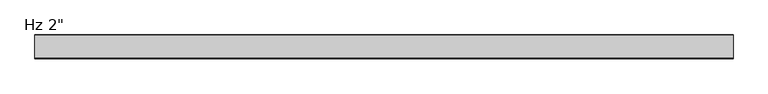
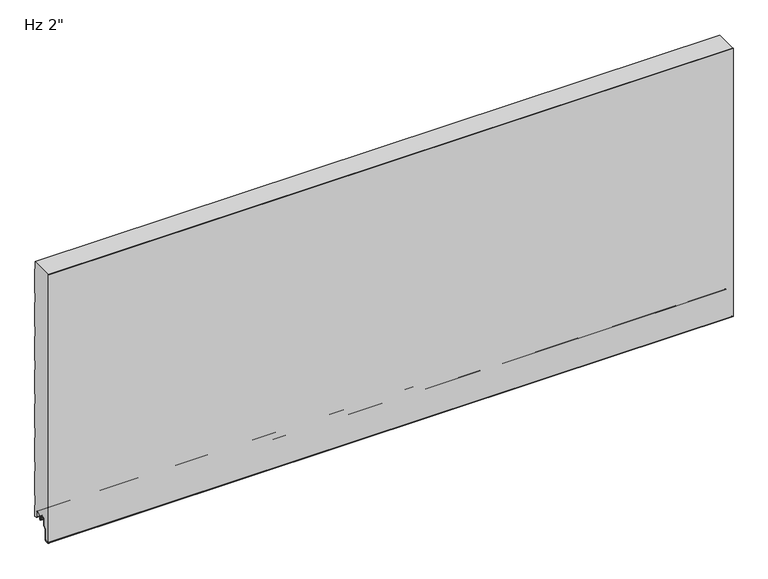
"""IFC4 building model written with IfcOpenShell, lengths in millimetres: plate geometry."""

from ifc_helpers import new_model, si_unit, point, frame, frame_2d, origin, place, context, project, spatial, polyline, circle_curve, trimmed, segment, composite_curve, outline, extrude, source, transform, mapped, element, save
from ifc_brep_helpers import plane_surface, cylinder_surface, revolved_surface, advanced_brep


def plate_41d342c4(model_context):
    return source(origin(), model_context, "Body", "SolidModel", [
        extrude(outline(composite_curve([segment(trimmed(circle_curve(frame_2d((-47.2297491, -32.4521148)), 3.5702393), [point((-46.9184787, -36.0087592))], [point((-50.7999884, -32.4521125))], False, "CARTESIAN"), True, "CONTINUOUS"), segment(polyline([(-50.7999884, -32.4521125), (-50.7996024, 571.2), (-49.7993815, 571.2), (-49.7993815, -32.509446)]), True, "CONTINUOUS"), segment(trimmed(circle_curve(frame_2d((-47.2297816, -32.4521176)), 2.5702393), [point((-49.7993815, -32.509446))], [point((-47.005696, -35.0125699))], True, "CARTESIAN"), True, "CONTINUOUS"), segment(polyline([(-47.005696, -35.0125699), (-42.0238751, -34.5765709)]), True, "CONTINUOUS"), segment(trimmed(circle_curve(frame_2d((-42.5052657, -31.9198392)), 2.6999926), [point((-42.0238751, -34.5765709))], [point((-39.8052731, -31.9198392))], True, "CARTESIAN"), True, "CONTINUOUS"), segment(polyline([(-39.8052731, -31.9198392), (-39.8052731, -9.8247096), (-34.303202, -4.3226385)]), True, "CONTINUOUS"), segment(trimmed(circle_curve(frame_2d((-35.5052797, -3.1205608)), 1.6999946), [point((-34.303202, -4.3226385))], [point((-33.8052851, -3.1205608))], True, "CARTESIAN"), True, "CONTINUOUS"), segment(polyline([(-33.8052851, -3.1205608), (-33.8052851, 8.6903283)]), True, "CONTINUOUS"), segment(trimmed(circle_curve(frame_2d((-30.4552898, 8.6903283)), 3.3499953), [point((-33.8052851, 8.6903283))], [point((-30.4552898, 12.0403236))], False, "CARTESIAN"), True, "CONTINUOUS"), segment(polyline([(-30.4552898, 12.0403236), (-26.0552986, 12.0403236)]), True, "CONTINUOUS"), segment(trimmed(circle_curve(frame_2d((-26.0552986, 8.6903283)), 3.3499953), [point((-26.0552986, 12.0403236))], [point((-22.7053033, 8.6903283))], False, "CARTESIAN"), True, "CONTINUOUS"), segment(polyline([(-22.7053033, 8.6903283), (-22.7053033, 5.9912173), (-21.3068244, 5.9912173), (-21.3068244, 2.2328239)]), True, "CONTINUOUS"), segment(trimmed(circle_curve(frame_2d((-22.5068211, 2.2313092)), 1.1999976), [point((-21.3068244, 2.2328239))], [point((-22.4762992, 1.0316999))], False, "CARTESIAN"), True, "CONTINUOUS"), segment(trimmed(circle_curve(frame_2d((-22.5068211, 2.2313092)), 1.1999976), [point((-22.4762992, 1.0316999))], [point((-23.7053033, 2.1710221))], False, "CARTESIAN"), True, "CONTINUOUS"), segment(polyline([(-23.7053033, 2.1710221), (-23.7053033, 8.6903283)]), True, "CONTINUOUS"), segment(trimmed(circle_curve(frame_2d((-26.0552986, 8.6903283)), 2.3499953), [point((-23.7053033, 8.6903283))], [point((-26.0552986, 11.0403236))], True, "CARTESIAN"), True, "CONTINUOUS"), segment(polyline([(-26.0552986, 11.0403236), (-30.4552898, 11.0403236)]), True, "CONTINUOUS"), segment(trimmed(circle_curve(frame_2d((-30.4552898, 8.6903283)), 2.3499953), [point((-30.4552898, 11.0403236))], [point((-32.8052851, 8.6903283))], True, "CARTESIAN"), True, "CONTINUOUS"), segment(polyline([(-32.8052851, 8.6903283), (-32.8052851, -3.1205608)]), True, "CONTINUOUS"), segment(trimmed(circle_curve(frame_2d((-35.5052797, -3.1205608)), 2.6999946), [point((-32.8052851, -3.1205608))], [point((-33.5960952, -5.0297453))], False, "CARTESIAN"), True, "CONTINUOUS"), segment(polyline([(-33.5960952, -5.0297453), (-38.4245127, -9.8581627)]), True, "CONTINUOUS"), segment(trimmed(circle_curve(frame_2d((-37.5052757, -10.7773997)), 1.2999974), [point((-38.4245127, -9.8581627))], [point((-38.8052731, -10.7773997))], True, "CARTESIAN"), True, "CONTINUOUS"), segment(polyline([(-38.8052731, -10.7773997), (-38.8052731, -31.9198392)]), True, "CONTINUOUS"), segment(trimmed(circle_curve(frame_2d((-42.5052657, -31.9198392)), 3.6999926), [point((-38.8052731, -31.9198392))], [point((-41.8944646, -35.5690675))], False, "CARTESIAN"), True, "CONTINUOUS"), segment(polyline([(-41.8944646, -35.5690675), (-46.9184787, -36.0087592)]), True, "CONTINUOUS")], self_intersect=False)), frame((-730.0, 0.0, 0.0), z_axis=(1.0, 0.0, 0.0), x_axis=(0.0, 1.0, 0.0)), (0.0, 0.0, 1.0), 1460.0),
        advanced_brep(
        [(-730.0, -22.4708959, 1.0316999), (-730.0, -21.3014212, 2.2328239), (-730.0, -21.3014212, 5.9912173), (-730.0, -22.6999001, 5.9912173), (-730.0, -22.6999001, 8.6903283), (-730.0, -26.0498954, 12.0403236), (-730.0, -30.4498866, 12.0403236), (-730.0, -33.7998819, 8.6903283), (-730.0, -33.7998819, -3.1205608), (-730.0, -34.2977988, -4.3226385), (-730.0, -39.7998699, -9.8247096), (-730.0, -39.7998699, -31.9198392), (-730.0, -42.0184719, -34.5765709), (-730.0, -47.0002927, -35.0125699), (-730.0, -49.7946177, -32.4521176), (-730.0, -49.8000209, 571.2), (-730.0, -2.2065959, 571.2), (-730.0, -2.2065959, 555.8184494), (-730.0, -1.0063652, 554.4328165), (-730.0, -1.0063652, 500.3794011), (-730.0, -2.2065959, 498.9937681), (-730.0, -2.2065959, 479.6186018), (-730.0, -1.0063652, 478.2329689), (-730.0, -1.0063652, 424.1795535), (-730.0, -2.2065959, 422.7939205), (-730.0, -2.2065959, 403.4187542), (-730.0, -1.0063652, 402.0331213), (-730.0, -1.0063652, 347.9797059), (-730.0, -2.2065959, 346.5940729), (-730.0, -2.2065959, 327.2189066), (-730.0, -1.0063652, 325.8332737), (-730.0, -1.0063652, 271.7798583), (-730.0, -2.2065959, 270.3942253), (-730.0, -2.2065959, 251.019059), (-730.0, -1.0063652, 249.6334261), (-730.0, -1.0063652, 195.5800107), (-730.0, -2.2065959, 194.1943777), (-730.0, -2.2065959, 174.8192114), (-730.0, -1.0063652, 173.4335785), (-730.0, -1.0063652, 119.3801631), (-730.0, -2.2065959, 117.9945301), (-730.0, -2.2065959, 98.6193638), (-730.0, -1.0063652, 97.2337309), (-730.0, -1.0063652, 43.1803155), (-730.0, -2.2065959, 41.7946825), (-730.0, -2.2065959, 22.4195162), (-730.0, -1.0063652, 21.0338833), (-730.0, -1.0063652, -3.4662506), (-730.0, -5.2379042, -3.4662506), (-730.0, -7.0078983, -1.6962564), (-730.0, -7.0078983, 8.7237222), (-730.0, -10.3078942, 12.023718), (-730.0, -14.7078854, 12.023718), (-730.0, -18.0078811, 8.7237223), (-730.0, -18.0078811, 6.0315125), (-730.0, -19.0078757, 6.0315125), (-730.0, -19.0078757, 2.0313089), (-730.0, -18.0078844, 1.0313117), (-730.0, -19.0391961, 0.0), (-730.0, -21.439196, 0.0), (730.0, -22.4708959, 1.0316999), (730.0, -21.439196, 0.0), (730.0, -19.0391961, 0.0), (730.0, -18.0078844, 1.0313117), (730.0, -19.0078757, 2.0313089), (730.0, -19.0078757, 6.0315125), (730.0, -18.0078811, 6.0315125), (730.0, -18.0078811, 8.7237223), (730.0, -14.7078854, 12.023718), (730.0, -10.3078942, 12.023718), (730.0, -7.0078983, 8.7237222), (730.0, -7.0078983, -1.6962564), (730.0, -5.2379042, -3.4662506), (730.0, -1.0063652, -3.4662506), (730.0, -1.0063652, 21.0338833), (730.0, -2.2065959, 22.4195162), (730.0, -2.2065959, 41.7946825), (730.0, -1.0063652, 43.1803155), (730.0, -1.0063652, 97.2337309), (730.0, -2.2065959, 98.6193638), (730.0, -2.2065959, 117.9945301), (730.0, -1.0063652, 119.3801631), (730.0, -1.0063652, 173.4335785), (730.0, -2.2065959, 174.8192114), (730.0, -2.2065959, 194.1943777), (730.0, -1.0063652, 195.5800107), (730.0, -1.0063652, 249.6334261), (730.0, -2.2065959, 251.019059), (730.0, -2.2065959, 270.3942253), (730.0, -1.0063652, 271.7798583), (730.0, -1.0063652, 325.8332737), (730.0, -2.2065959, 327.2189066), (730.0, -2.2065959, 346.5940729), (730.0, -1.0063652, 347.9797059), (730.0, -1.0063652, 402.0331213), (730.0, -2.2065959, 403.4187542), (730.0, -2.2065959, 422.7939205), (730.0, -1.0063652, 424.1795535), (730.0, -1.0063652, 478.2329689), (730.0, -2.2065959, 479.6186018), (730.0, -2.2065959, 498.9937681), (730.0, -1.0063652, 500.3794011), (730.0, -1.0063652, 554.4328165), (730.0, -2.2065959, 555.8184494), (730.0, -2.2065959, 571.2), (730.0, -49.8000209, 571.2), (730.0, -49.8000209, -32.4521176), (730.0, -47.0002927, -35.0125699), (730.0, -42.0184719, -34.5765709), (730.0, -39.7998699, -31.9198392), (730.0, -39.7998699, -9.8247096), (730.0, -34.2977988, -4.3226385), (730.0, -33.7998819, -3.1205608), (730.0, -33.7998819, 8.6903283), (730.0, -30.4498866, 12.0403236), (730.0, -26.0498954, 12.0403236), (730.0, -22.6999001, 8.6903283), (730.0, -22.6999001, 5.9912173), (730.0, -21.3014212, 5.9912173), (730.0, -21.3014212, 2.2328239)],
        [
            (0, 1, circle_curve(frame((-730.0, -22.5014178, 2.2313092), z_axis=(1.0, 0.0, 0.0), x_axis=(0.0, 0.0, -1.0)), 1.1999976)),
            (1, 2),
            (2, 3),
            (3, 4),
            (4, 5, circle_curve(frame((-730.0, -26.0498954, 8.6903283), z_axis=(1.0, 0.0, 0.0), x_axis=(0.0, 0.0, -1.0)), 3.3499953)),
            (5, 6),
            (6, 7, circle_curve(frame((-730.0, -30.4498866, 8.6903283), z_axis=(1.0, 0.0, 0.0), x_axis=(0.0, 0.0, -1.0)), 3.3499953)),
            (7, 8),
            (8, 9, circle_curve(frame((-730.0, -35.4998765, -3.1205608), z_axis=(-1.0, 0.0, 0.0), x_axis=(0.0, 0.0, -1.0)), 1.6999946)),
            (9, 10),
            (10, 11),
            (11, 12, circle_curve(frame((-730.0, -42.4998625, -31.9198392), z_axis=(-1.0, 0.0, 0.0), x_axis=(0.0, 0.0, -1.0)), 2.6999926)),
            (12, 13),
            (13, 14, circle_curve(frame((-730.0, -47.2243784, -32.4521176), z_axis=(-1.0, 0.0, 0.0), x_axis=(0.0, 0.0, -1.0)), 2.5702393)),
            (14, 15),
            (15, 16),
            (16, 17),
            (17, 18),
            (18, 19),
            (19, 20),
            (20, 21),
            (21, 22),
            (22, 23),
            (23, 24),
            (24, 25),
            (25, 26),
            (26, 27),
            (27, 28),
            (28, 29),
            (29, 30),
            (30, 31),
            (31, 32),
            (32, 33),
            (33, 34),
            (34, 35),
            (35, 36),
            (36, 37),
            (37, 38),
            (38, 39),
            (39, 40),
            (40, 41),
            (41, 42),
            (42, 43),
            (43, 44),
            (44, 45),
            (45, 46),
            (46, 47),
            (47, 48),
            (48, 49, circle_curve(frame((-730.0, -5.2379042, -1.6962564), z_axis=(-1.0, 0.0, 0.0), x_axis=(0.0, 0.0, -1.0)), 1.7699942)),
            (49, 50),
            (50, 51, circle_curve(frame((-730.0, -10.3078942, 8.7237222), z_axis=(1.0, 0.0, 0.0), x_axis=(0.0, 0.0, -1.0)), 3.2999959)),
            (51, 52),
            (52, 53, circle_curve(frame((-730.0, -14.7078854, 8.7237223), z_axis=(1.0, 0.0, 0.0), x_axis=(0.0, 0.0, -1.0)), 3.2999957)),
            (53, 54),
            (54, 55),
            (55, 56),
            (56, 57, circle_curve(frame((-730.0, -18.0078785, 2.0313089), z_axis=(1.0, 0.0, 0.0), x_axis=(0.0, 0.0, -1.0)), 0.9999972)),
            (57, 58),
            (58, 59),
            (59, 0),
            (60, 61),
            (61, 62),
            (62, 63),
            (63, 64, circle_curve(frame((730.0, -18.0078785, 2.0313089), z_axis=(-1.0, 0.0, 0.0), x_axis=(0.0, 0.0, -1.0)), 0.9999972)),
            (64, 65),
            (65, 66),
            (66, 67),
            (67, 68, circle_curve(frame((730.0, -14.7078854, 8.7237223), z_axis=(-1.0, 0.0, 0.0), x_axis=(0.0, 0.0, -1.0)), 3.2999957)),
            (68, 69),
            (69, 70, circle_curve(frame((730.0, -10.3078942, 8.7237222), z_axis=(-1.0, 0.0, 0.0), x_axis=(0.0, 0.0, -1.0)), 3.2999959)),
            (70, 71),
            (71, 72, circle_curve(frame((730.0, -5.2379042, -1.6962564), z_axis=(1.0, 0.0, 0.0), x_axis=(0.0, 0.0, -1.0)), 1.7699942)),
            (72, 73),
            (73, 74),
            (74, 75),
            (75, 76),
            (76, 77),
            (77, 78),
            (78, 79),
            (79, 80),
            (80, 81),
            (81, 82),
            (82, 83),
            (83, 84),
            (84, 85),
            (85, 86),
            (86, 87),
            (87, 88),
            (88, 89),
            (89, 90),
            (90, 91),
            (91, 92),
            (92, 93),
            (93, 94),
            (94, 95),
            (95, 96),
            (96, 97),
            (97, 98),
            (98, 99),
            (99, 100),
            (100, 101),
            (101, 102),
            (102, 103),
            (103, 104),
            (104, 105),
            (105, 106),
            (106, 107, circle_curve(frame((730.0, -47.2243784, -32.4521176), z_axis=(1.0, 0.0, 0.0), x_axis=(0.0, 0.0, -1.0)), 2.5702393)),
            (107, 108),
            (108, 109, circle_curve(frame((730.0, -42.4998625, -31.9198392), z_axis=(1.0, 0.0, 0.0), x_axis=(0.0, 0.0, -1.0)), 2.6999926)),
            (109, 110),
            (110, 111),
            (111, 112, circle_curve(frame((730.0, -35.4998765, -3.1205608), z_axis=(1.0, 0.0, 0.0), x_axis=(0.0, 0.0, -1.0)), 1.6999946)),
            (112, 113),
            (113, 114, circle_curve(frame((730.0, -30.4498866, 8.6903283), z_axis=(-1.0, 0.0, 0.0), x_axis=(0.0, 0.0, -1.0)), 3.3499953)),
            (114, 115),
            (115, 116, circle_curve(frame((730.0, -26.0498954, 8.6903283), z_axis=(-1.0, 0.0, 0.0), x_axis=(0.0, 0.0, -1.0)), 3.3499953)),
            (116, 117),
            (117, 118),
            (118, 119),
            (119, 60, circle_curve(frame((730.0, -22.5014178, 2.2313092), z_axis=(-1.0, 0.0, 0.0), x_axis=(0.0, 0.0, -1.0)), 1.1999976)),
            (58, 62),
            (61, 59),
            (0, 60),
            (119, 1),
            (50, 70),
            (69, 51),
            (47, 73),
            (72, 48),
            (49, 71),
            (52, 68),
            (67, 53),
            (54, 66),
            (65, 55),
            (105, 15),
            (14, 106),
            (57, 63),
            (56, 64),
            (13, 107),
            (12, 108),
            (10, 110),
            (109, 11),
            (9, 111),
            (7, 113),
            (112, 8),
            (6, 114),
            (4, 116),
            (115, 5),
            (3, 117),
            (2, 118),
            (104, 16),
            (45, 75),
            (74, 46),
            (44, 76),
            (43, 77),
            (103, 17),
            (18, 102),
            (101, 19),
            (100, 20),
            (99, 21),
            (22, 98),
            (97, 23),
            (24, 96),
            (95, 25),
            (94, 26),
            (93, 27),
            (30, 90),
            (89, 31),
            (29, 91),
            (28, 92),
            (32, 88),
            (87, 33),
            (34, 86),
            (85, 35),
            (38, 82),
            (81, 39),
            (36, 84),
            (83, 37),
            (42, 78),
            (41, 79),
            (40, 80),
        ],
        [
            plane_surface(frame((-730.0, -49.8000209, 457.2), z_axis=(-1.0, 0.0, 0.0), x_axis=(0.0, -1.0, 0.0))),
            plane_surface(frame((730.0, -49.8000209, 457.2), z_axis=(1.0, 0.0, 0.0), x_axis=(0.0, -1.0, 0.0))),
            plane_surface(frame((-730.0, -21.439196, 0.0), z_axis=(0.0, 0.0, -1.0), x_axis=(1.0, 0.0, 0.0))),
            revolved_surface(polyline([(730.0, -22.5014178, 1.0313116), (-730.0, -22.5014178, 1.0313116)]), (-730.0, -22.5014178, 2.2313092), (1.0, 0.0, 0.0)),
            plane_surface(frame((-730.0, -22.4708959, 1.0316999), z_axis=(0.0, -0.7071067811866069, -0.7071067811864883), x_axis=(1.0, 0.0, 0.0))),
            revolved_surface(polyline([(730.0, -10.3078942, 5.423726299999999), (-730.0, -10.3078942, 5.423726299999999)]), (-730.0, -10.3078942, 8.7237222), (1.0, 0.0, 0.0)),
            plane_surface(frame((-730.0, -5.2379042, -3.4662506), z_axis=(0.0, 0.0, -1.0), x_axis=(1.0, 0.0, 0.0))),
            plane_surface(frame((-730.0, -7.0078983, 8.7237222), z_axis=(0.0, -1.0, 0.0), x_axis=(1.0, 0.0, 0.0))),
            cylinder_surface(frame((-730.0, -5.2379042, -1.6962564), z_axis=(-1.0, 0.0, 0.0), x_axis=(0.0, 0.0, -1.0)), 1.7699942),
            revolved_surface(polyline([(730.0, -14.7078854, 5.4237266), (-730.0, -14.7078854, 5.4237266)]), (-730.0, -14.7078854, 8.7237223), (1.0, 0.0, 0.0)),
            plane_surface(frame((-730.0, -14.7078854, 12.023718), z_axis=(0.0, 0.0, -1.0), x_axis=(1.0, 0.0, 0.0))),
            plane_surface(frame((-730.0, -19.0078757, 6.0315125), z_axis=(0.0, 0.0, -1.0), x_axis=(1.0, 0.0, 0.0))),
            plane_surface(frame((-730.0, -18.0078811, 6.0315125), z_axis=(0.0, 1.0, 0.0), x_axis=(1.0, 0.0, 0.0))),
            plane_surface(frame((-730.0, -49.8000209, 865.915622), z_axis=(0.0, -1.0, 0.0), x_axis=(1.0, 0.0, 0.0))),
            plane_surface(frame((-730.0, -19.0391961, 0.0), z_axis=(0.0, 0.7071067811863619, -0.7071067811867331), x_axis=(1.0, 0.0, 0.0))),
            revolved_surface(polyline([(730.0, -18.0078785, 1.0313116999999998), (-730.0, -18.0078785, 1.0313116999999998)]), (-730.0, -18.0078785, 2.0313089), (1.0, 0.0, 0.0)),
            plane_surface(frame((-730.0, -19.0078757, 2.0313089), z_axis=(0.0, 1.0, 0.0), x_axis=(1.0, 0.0, 0.0))),
            cylinder_surface(frame((-730.0, -47.2243784, -32.4521176), z_axis=(-1.0, 0.0, 0.0), x_axis=(0.0, 0.0, -1.0)), 2.5702393),
            plane_surface(frame((-730.0, -47.0002927, -35.0125699), z_axis=(0.0, 0.08718474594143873, -0.9961921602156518), x_axis=(1.0, 0.0, 0.0))),
            plane_surface(frame((-730.0, -39.7998699, -31.9198392), z_axis=(0.0, 1.0, 0.0), x_axis=(1.0, 0.0, 0.0))),
            cylinder_surface(frame((-730.0, -42.4998625, -31.9198392), z_axis=(-1.0, 0.0, 0.0), x_axis=(0.0, 0.0, -1.0)), 2.6999926),
            plane_surface(frame((-730.0, -39.7998699, -9.8247096), z_axis=(0.0, 0.7071067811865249, -0.7071067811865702), x_axis=(1.0, 0.0, 0.0))),
            plane_surface(frame((-730.0, -33.7998819, -3.1205608), z_axis=(0.0, 1.0, 0.0), x_axis=(1.0, 0.0, 0.0))),
            revolved_surface(polyline([(730.0, -30.4498866, 5.340332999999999), (-730.0, -30.4498866, 5.340332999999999)]), (-730.0, -30.4498866, 8.6903283), (1.0, 0.0, 0.0)),
            cylinder_surface(frame((-730.0, -35.4998765, -3.1205608), z_axis=(-1.0, 0.0, 0.0), x_axis=(0.0, 0.0, -1.0)), 1.6999946),
            revolved_surface(polyline([(730.0, -26.0498954, 5.340332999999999), (-730.0, -26.0498954, 5.340332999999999)]), (-730.0, -26.0498954, 8.6903283), (1.0, 0.0, 0.0)),
            plane_surface(frame((-730.0, -30.4498866, 12.0403236), z_axis=(0.0, 0.0, -1.0), x_axis=(1.0, 0.0, 0.0))),
            plane_surface(frame((-730.0, -22.6999001, 8.6903283), z_axis=(0.0, -1.0, 0.0), x_axis=(1.0, 0.0, 0.0))),
            plane_surface(frame((-730.0, -22.6999001, 5.9912173), z_axis=(0.0, 0.0, -1.0), x_axis=(1.0, 0.0, 0.0))),
            plane_surface(frame((-730.0, -21.3014212, 5.9912173), z_axis=(0.0, -1.0, 0.0), x_axis=(1.0, 0.0, 0.0))),
            plane_surface(frame((730.0, 9.9999791, 571.2), z_axis=(0.0, 0.0, 1.0), x_axis=(-1.0, 0.0, 0.0))),
            plane_surface(frame((-730.0, -1.0063652, 21.0338833), z_axis=(0.0, 0.7558648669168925, 0.6547276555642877), x_axis=(1.0, 0.0, 0.0))),
            plane_surface(frame((-730.0, -2.2065959, 22.4195162), z_axis=(0.0, 1.0, 0.0), x_axis=(1.0, 0.0, 0.0))),
            plane_surface(frame((-730.0, -2.2065959, 41.7946825), z_axis=(0.0, 0.7558648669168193, -0.6547276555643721), x_axis=(1.0, 0.0, 0.0))),
            plane_surface(frame((-730.0, -1.0063652, -3.4662506), z_axis=(0.0, 1.0, 0.0), x_axis=(1.0, 0.0, 0.0))),
            plane_surface(frame((-730.0, -2.2065959, 555.8184494), z_axis=(0.0, 1.0, 0.0), x_axis=(1.0, 0.0, 0.0))),
            plane_surface(frame((-730.0, -1.0063652, 500.3794011), z_axis=(0.0, 1.0, 0.0), x_axis=(1.0, 0.0, 0.0))),
            plane_surface(frame((-730.0, -1.0063652, 554.4328165), z_axis=(0.0, 0.7558648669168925, 0.6547276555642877), x_axis=(1.0, 0.0, 0.0))),
            plane_surface(frame((-730.0, -2.2065959, 498.9937681), z_axis=(0.0, 0.7558648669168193, -0.6547276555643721), x_axis=(1.0, 0.0, 0.0))),
            plane_surface(frame((-730.0, -2.2065959, 479.6186018), z_axis=(0.0, 1.0, 0.0), x_axis=(1.0, 0.0, 0.0))),
            plane_surface(frame((-730.0, -1.0063652, 424.1795535), z_axis=(0.0, 1.0, 0.0), x_axis=(1.0, 0.0, 0.0))),
            plane_surface(frame((-730.0, -1.0063652, 478.2329689), z_axis=(0.0, 0.755864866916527, 0.6547276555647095), x_axis=(1.0, 0.0, 0.0))),
            plane_surface(frame((-730.0, -2.2065959, 403.4187542), z_axis=(0.0, 1.0, 0.0), x_axis=(1.0, 0.0, 0.0))),
            plane_surface(frame((-730.0, -1.0063652, 402.0331213), z_axis=(0.0, 0.755864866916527, 0.6547276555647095), x_axis=(1.0, 0.0, 0.0))),
            plane_surface(frame((-730.0, -2.2065959, 422.7939205), z_axis=(0.0, 0.755864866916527, -0.6547276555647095), x_axis=(1.0, 0.0, 0.0))),
            plane_surface(frame((-730.0, -1.0063652, 347.9797059), z_axis=(0.0, 1.0, 0.0), x_axis=(1.0, 0.0, 0.0))),
            plane_surface(frame((-730.0, -1.0063652, 271.7798583), z_axis=(0.0, 1.0, 0.0), x_axis=(1.0, 0.0, 0.0))),
            plane_surface(frame((-730.0, -1.0063652, 325.8332737), z_axis=(0.0, 0.7558648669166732, 0.6547276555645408), x_axis=(1.0, 0.0, 0.0))),
            plane_surface(frame((-730.0, -2.2065959, 327.2189066), z_axis=(0.0, 1.0, 0.0), x_axis=(1.0, 0.0, 0.0))),
            plane_surface(frame((-730.0, -2.2065959, 346.5940729), z_axis=(0.0, 0.755864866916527, -0.6547276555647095), x_axis=(1.0, 0.0, 0.0))),
            plane_surface(frame((-730.0, -2.2065959, 251.019059), z_axis=(0.0, 1.0, 0.0), x_axis=(1.0, 0.0, 0.0))),
            plane_surface(frame((-730.0, -2.2065959, 270.3942253), z_axis=(0.0, 0.7558648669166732, -0.6547276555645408), x_axis=(1.0, 0.0, 0.0))),
            plane_surface(frame((-730.0, -1.0063652, 195.5800107), z_axis=(0.0, 1.0, 0.0), x_axis=(1.0, 0.0, 0.0))),
            plane_surface(frame((-730.0, -1.0063652, 249.6334261), z_axis=(0.0, 0.7558648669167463, 0.6547276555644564), x_axis=(1.0, 0.0, 0.0))),
            plane_surface(frame((-730.0, -1.0063652, 119.3801631), z_axis=(0.0, 1.0, 0.0), x_axis=(1.0, 0.0, 0.0))),
            plane_surface(frame((-730.0, -2.2065959, 174.8192114), z_axis=(0.0, 1.0, 0.0), x_axis=(1.0, 0.0, 0.0))),
            plane_surface(frame((-730.0, -2.2065959, 194.1943777), z_axis=(0.0, 0.7558648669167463, -0.6547276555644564), x_axis=(1.0, 0.0, 0.0))),
            plane_surface(frame((-730.0, -1.0063652, 173.4335785), z_axis=(0.0, 0.7558648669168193, 0.6547276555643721), x_axis=(1.0, 0.0, 0.0))),
            plane_surface(frame((-730.0, -1.0063652, 43.1803155), z_axis=(0.0, 1.0, 0.0), x_axis=(1.0, 0.0, 0.0))),
            plane_surface(frame((-730.0, -1.0063652, 97.2337309), z_axis=(0.0, 0.7558648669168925, 0.6547276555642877), x_axis=(1.0, 0.0, 0.0))),
            plane_surface(frame((-730.0, -2.2065959, 98.6193638), z_axis=(0.0, 1.0, 0.0), x_axis=(1.0, 0.0, 0.0))),
            plane_surface(frame((-730.0, -2.2065959, 117.9945301), z_axis=(0.0, 0.7558648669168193, -0.6547276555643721), x_axis=(1.0, 0.0, 0.0))),
        ],
        [
            (0, [[1, 2, 3, 4, 5, 6, 7, 8, 9, 10, 11, 12, 13, 14, 15, 16, 17, 18, 19, 20, 21, 22, 23, 24, 25, 26, 27, 28, 29, 30, 31, 32, 33, 34, 35, 36, 37, 38, 39, 40, 41, 42, 43, 44, 45, 46, 47, 48, 49, 50, 51, 52, 53, 54, 55, 56, 57, 58, 59, 60]]),
            (1, [[61, 62, 63, 64, 65, 66, 67, 68, 69, 70, 71, 72, 73, 74, 75, 76, 77, 78, 79, 80, 81, 82, 83, 84, 85, 86, 87, 88, 89, 90, 91, 92, 93, 94, 95, 96, 97, 98, 99, 100, 101, 102, 103, 104, 105, 106, 107, 108, 109, 110, 111, 112, 113, 114, 115, 116, 117, 118, 119, 120]]),
            (2, [[121, -62, 122, -59]]),
            (3, [[123, -120, 124, -1]]),
            (4, [[-122, -61, -123, -60]]),
            (5, [[125, -70, 126, -51]]),
            (6, [[127, -73, 128, -48]]),
            (7, [[129, -71, -125, -50]]),
            (8, [[-128, -72, -129, -49]]),
            (9, [[130, -68, 131, -53]]),
            (10, [[-126, -69, -130, -52]]),
            (11, [[132, -66, 133, -55]]),
            (12, [[-131, -67, -132, -54]]),
            (13, [[-106, 134, -15, 135]]),
            (14, [[136, -63, -121, -58]]),
            (15, [[137, -64, -136, -57]]),
            (16, [[-133, -65, -137, -56]]),
            (17, [[138, -107, -135, -14]]),
            (18, [[139, -108, -138, -13]]),
            (19, [[140, -110, 141, -11]]),
            (20, [[-141, -109, -139, -12]]),
            (21, [[142, -111, -140, -10]]),
            (22, [[143, -113, 144, -8]]),
            (23, [[145, -114, -143, -7]]),
            (24, [[-144, -112, -142, -9]]),
            (25, [[146, -116, 147, -5]]),
            (26, [[-147, -115, -145, -6]]),
            (27, [[148, -117, -146, -4]]),
            (28, [[149, -118, -148, -3]]),
            (29, [[-124, -119, -149, -2]]),
            (30, [[-134, -105, 150, -16]]),
            (31, [[151, -75, 152, -46]]),
            (32, [[153, -76, -151, -45]]),
            (33, [[154, -77, -153, -44]]),
            (34, [[-152, -74, -127, -47]]),
            (35, [[-17, -150, -104, 155]]),
            (36, [[156, -102, 157, -19]]),
            (37, [[-155, -103, -156, -18]]),
            (38, [[-157, -101, 158, -20]]),
            (39, [[-158, -100, 159, -21]]),
            (40, [[160, -98, 161, -23]]),
            (41, [[-159, -99, -160, -22]]),
            (42, [[162, -96, 163, -25]]),
            (43, [[-163, -95, 164, -26]]),
            (44, [[-161, -97, -162, -24]]),
            (45, [[-164, -94, 165, -27]]),
            (46, [[166, -90, 167, -31]]),
            (47, [[168, -91, -166, -30]]),
            (48, [[169, -92, -168, -29]]),
            (49, [[-165, -93, -169, -28]]),
            (50, [[170, -88, 171, -33]]),
            (51, [[-167, -89, -170, -32]]),
            (52, [[172, -86, 173, -35]]),
            (53, [[-171, -87, -172, -34]]),
            (54, [[174, -82, 175, -39]]),
            (55, [[176, -84, 177, -37]]),
            (56, [[-173, -85, -176, -36]]),
            (57, [[-177, -83, -174, -38]]),
            (58, [[178, -78, -154, -43]]),
            (59, [[179, -79, -178, -42]]),
            (60, [[180, -80, -179, -41]]),
            (61, [[-175, -81, -180, -40]]),
        ],
    ),
    ])


if __name__ == "__main__":
    model = new_model("IFC4")
    model_context = context("Model", 3, world=origin())
    ifc_project = project(units=[si_unit("LENGTHUNIT", "METRE", prefix="MILLI")], contexts=[model_context])
    site = spatial("IfcSite", under=ifc_project)
    building = spatial("IfcBuilding", under=site)
    placement = place(None, origin())
    plate_shape = plate_41d342c4(model_context)
    element("IfcPlate", 1, ObjectType="KIP-36-Karrier-KP-R19-CP-Hz-FL3-8in_SL : Hz 2\"", at=placement, inside=building, context=model_context, shape_type="MappedRepresentation", body=[
        mapped(plate_shape, transform((0.0, 0.0, 0.0), x_axis=(1.0, 0.0, 0.0), y_axis=(0.0, 1.0, 0.0), z_axis=(0.0, 0.0, 1.0))),
    ])
    save(model, "model.ifc")
